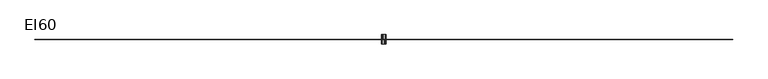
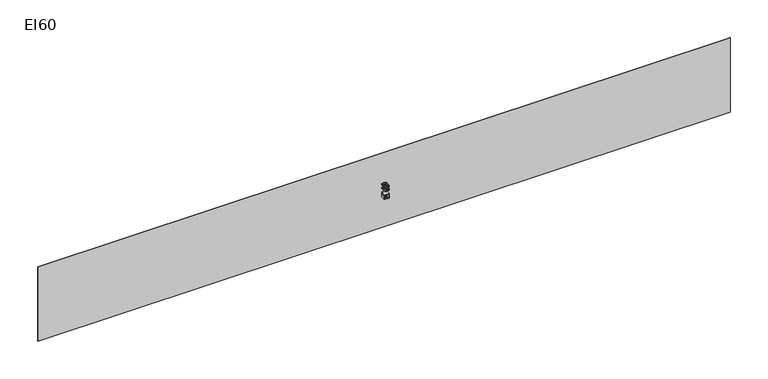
"""IFC4 building model written with IfcOpenShell, lengths in millimetres: proxy geometry, Fire_FireCompartmentationEI : EI60."""

import ifcopenshell
import ifcopenshell.guid

model = None  # the IFC model being written
_history = None  # IfcOwnerHistory: only IFC2X3 demands one
_inside = {}  # id of a spatial element -> (the spatial element, [elements in it])
_under = {}  # id of a project, library or spatial element -> (it, [spatial elements below it])
_declared = {}  # id of a project -> (the project, [libraries it declares])
_typed = {}  # id of a type object -> (the type object, [elements of that type])
_made_of = {}  # id of a material, layer set ... -> (it, [elements and type objects made of it])


def new_model(schema):
    """Start an empty IFC model of exactly this schema.

    Asked for "IFC4X3", IfcOpenShell would pick the latest addendum, in which some entities
    have other attributes; the version numbers below select the first issue.
    IFC2X3 requires an IfcOwnerHistory on every rooted entity: one is made here for all.
    """
    global model, _history
    if schema == "IFC4X3":
        model = ifcopenshell.file(schema_version=(4, 3, 0, 0))
    else:
        model = ifcopenshell.file(schema=schema)
    _inside.clear()
    _under.clear()
    _declared.clear()
    _typed.clear()
    _made_of.clear()
    _history = None
    if model.schema == "IFC2X3":
        org = make("IfcOrganization", Name="unknown")
        user = make(
            "IfcPersonAndOrganization",
            ThePerson=make("IfcPerson", FamilyName="unknown"),
            TheOrganization=org,
        )
        app = make(
            "IfcApplication",
            ApplicationDeveloper=org,
            Version="unknown",
            ApplicationFullName="unknown",
            ApplicationIdentifier="unknown",
        )
        _history = make(
            "IfcOwnerHistory",
            OwningUser=user,
            OwningApplication=app,
            ChangeAction="ADDED",
            CreationDate=0,
        )
    return model


def make(cls, **values):
    """One entity of the class cls with the attributes given. An attribute that is None is left unset."""
    return model.create_entity(
        cls, **{name: value for name, value in values.items() if value is not None}
    )


def rooted(cls, **values):
    """An entity with a GlobalId (a new one), such as an element, a storey or a relation."""
    return make(cls, GlobalId=ifcopenshell.guid.new(), OwnerHistory=_history, **values)


def si_unit(unit_type, name, prefix=None):
    """IfcSIUnit, for example si_unit("LENGTHUNIT", "METRE", prefix="MILLI")."""
    return make("IfcSIUnit", UnitType=unit_type, Prefix=prefix, Name=name)


def assignment(units):
    """IfcUnitAssignment: the units of a project."""
    return None if units is None else make("IfcUnitAssignment", Units=units)


def point(xyz):
    """IfcCartesianPoint."""
    return None if xyz is None else make("IfcCartesianPoint", Coordinates=xyz)


def direction(xyz):
    """IfcDirection."""
    return None if xyz is None else make("IfcDirection", DirectionRatios=xyz)


def frame(location, z_axis=None, x_axis=None):
    """IfcAxis2Placement3D, a coordinate frame: its origin and axes. An axis left out is left unset."""
    return make(
        "IfcAxis2Placement3D",
        Location=point(location),
        Axis=direction(z_axis),
        RefDirection=direction(x_axis),
    )


def frame_2d(location, x_axis=None):
    """IfcAxis2Placement2D, a coordinate frame in the plane: its origin and x axis."""
    return make(
        "IfcAxis2Placement2D", Location=point(location), RefDirection=direction(x_axis)
    )


def origin():
    """The frame at (0, 0, 0) with its axes left unset."""
    return frame((0.0, 0.0, 0.0))


def origin_with_axes():
    """The frame at (0, 0, 0) with the z axis (0, 0, 1) and the x axis (1, 0, 0) written out."""
    return frame((0.0, 0.0, 0.0), z_axis=(0.0, 0.0, 1.0), x_axis=(1.0, 0.0, 0.0))


def place(relative_to, where):
    """IfcLocalPlacement: puts the frame where relative to a parent placement (None: the world)."""
    return make(
        "IfcLocalPlacement", PlacementRelTo=relative_to, RelativePlacement=where
    )


def context(
    kind, dimensions, precision=None, world=None, true_north=None, identifier=None
):
    """IfcGeometricRepresentationContext, for example the 3D "Model" context."""
    return make(
        "IfcGeometricRepresentationContext",
        ContextIdentifier=identifier,
        ContextType=kind,
        CoordinateSpaceDimension=dimensions,
        Precision=precision,
        WorldCoordinateSystem=world,
        TrueNorth=true_north,
    )


def project(units=None, contexts=None):
    """IfcProject with its units and contexts."""
    return rooted(
        "IfcProject",
        Name="project",
        RepresentationContexts=contexts,
        UnitsInContext=assignment(units),
    )


def spatial(cls, under=None, at=None, **own):
    """A site, building, storey or space (cls), placed at a placement, below another one or the project."""
    s = rooted(cls, ObjectPlacement=at, **own)
    if under is not None:
        _under.setdefault(under.id(), (under, []))[1].append(s)
    return s


def polyline(points):
    """IfcPolyline through the points."""
    return make("IfcPolyline", Points=[point(p) for p in points])


def circle_curve(where, radius):
    """IfcCircle in the frame where."""
    return make("IfcCircle", Position=where, Radius=radius)


def trimmed(basis, trim1, trim2, sense, master):
    """IfcTrimmedCurve: the piece of a basis curve between two trims."""
    return make(
        "IfcTrimmedCurve",
        BasisCurve=basis,
        Trim1=trim1,
        Trim2=trim2,
        SenseAgreement=sense,
        MasterRepresentation=master,
    )


def segment(curve, same_sense, transition):
    """IfcCompositeCurveSegment."""
    return make(
        "IfcCompositeCurveSegment",
        Transition=transition,
        SameSense=same_sense,
        ParentCurve=curve,
    )


def composite_curve(segments, self_intersect=None):
    """IfcCompositeCurve: segments joined end to end."""
    return make("IfcCompositeCurve", Segments=segments, SelfIntersect=self_intersect)


def outline(outer, holes=None, kind="AREA"):
    """IfcArbitraryClosedProfileDef: a profile drawn as a closed curve; with holes, ...WithVoids."""
    if holes is None:
        return make("IfcArbitraryClosedProfileDef", ProfileType=kind, OuterCurve=outer)
    return make(
        "IfcArbitraryProfileDefWithVoids",
        ProfileType=kind,
        OuterCurve=outer,
        InnerCurves=holes,
    )


def extrude(swept, where, along, depth):
    """IfcExtrudedAreaSolid: the profile swept, set in the frame where, extruded along a direction by depth."""
    return make(
        "IfcExtrudedAreaSolid",
        SweptArea=swept,
        Position=where,
        ExtrudedDirection=direction(along),
        Depth=depth,
    )


def shape(context_of_items, identifier, shape_type, items):
    """IfcShapeRepresentation: the items that make up one representation, for example the "Body"."""
    return make(
        "IfcShapeRepresentation",
        ContextOfItems=context_of_items,
        RepresentationIdentifier=identifier,
        RepresentationType=shape_type,
        Items=items,
    )


def source(mapping_origin, context_of_items, identifier, shape_type, items):
    """IfcRepresentationMap: a shape defined once, which mapped items show again and again."""
    return make(
        "IfcRepresentationMap",
        MappingOrigin=mapping_origin,
        MappedRepresentation=shape(context_of_items, identifier, shape_type, items),
    )


def transform(
    local_origin,
    x_axis=None,
    y_axis=None,
    z_axis=None,
    scale=None,
    scale2=None,
    scale3=None,
    uniform=True,
):
    """IfcCartesianTransformationOperator3D, or its non-uniform kind. x_axis, y_axis, z_axis: its Axis1, 2, 3."""
    if uniform:
        return make(
            "IfcCartesianTransformationOperator3D",
            Axis1=direction(x_axis),
            Axis2=direction(y_axis),
            LocalOrigin=point(local_origin),
            Scale=scale,
            Axis3=direction(z_axis),
        )
    return make(
        "IfcCartesianTransformationOperator3DnonUniform",
        Axis1=direction(x_axis),
        Axis2=direction(y_axis),
        LocalOrigin=point(local_origin),
        Scale=scale,
        Axis3=direction(z_axis),
        Scale2=scale2,
        Scale3=scale3,
    )


def mapped(mapping_source, mapping_target):
    """IfcMappedItem: shows the shape of a source again, moved by a transform."""
    return make(
        "IfcMappedItem", MappingSource=mapping_source, MappingTarget=mapping_target
    )


def made_of(thing, what):
    """Note that an element or type object is made of a material, layer set ...; save() writes the relation."""
    if what is not None:
        _made_of.setdefault(what.id(), (what, []))[1].append(thing)
    return thing


def element(
    cls,
    number,
    at=None,
    inside=None,
    cuts=None,
    type_object=None,
    material=None,
    context=None,
    identifier="Body",
    shape_type=None,
    held_by="IfcProductDefinitionShape",
    body=None,
    shapes=None,
    **own,
):
    """One element of the class cls, such as IfcWall. Its Tag is "e" and its number.

    at: its placement. inside: the storey or other place that contains it. cuts: it is an
    opening in that element (IfcRelVoidsElement). A single representation is given by context,
    identifier, shape_type and body (its items); several are given by shapes. held_by: the class
    of the entity that holds the representations. save() writes the other relations.
    """
    e = rooted(cls, Tag="e%d" % number, ObjectPlacement=at, **own)
    if body is not None:
        shapes = [shape(context, identifier, shape_type, body)]
    if shapes is not None:
        e.Representation = make(held_by, Representations=shapes)
    if inside is not None:
        _inside.setdefault(inside.id(), (inside, []))[1].append(e)
    if cuts is not None:
        rooted(
            "IfcRelVoidsElement", RelatingBuildingElement=cuts, RelatedOpeningElement=e
        )
    if type_object is not None:
        _typed.setdefault(type_object.id(), (type_object, []))[1].append(e)
    return made_of(e, material)


def aggregate(whole, parts):
    """IfcRelAggregates: a whole, such as a stair, and the parts it consists of."""
    return rooted("IfcRelAggregates", RelatingObject=whole, RelatedObjects=parts)


def save(model, path):
    """Write the relations noted so far, then the file.

    IfcRelAggregates (storeys below a building ...), IfcRelContainedInSpatialStructure (elements
    in a storey), IfcRelDefinesByType, IfcRelAssociatesMaterial and IfcRelDeclares: one each for
    every whole, place, type object, material and project.
    """
    for whole, parts in _under.values():
        aggregate(whole, parts)
    for where, things in _inside.values():
        rooted(
            "IfcRelContainedInSpatialStructure",
            RelatedElements=things,
            RelatingStructure=where,
        )
    for kind, things in _typed.values():
        rooted("IfcRelDefinesByType", RelatedObjects=things, RelatingType=kind)
    for what, things in _made_of.values():
        rooted("IfcRelAssociatesMaterial", RelatedObjects=things, RelatingMaterial=what)
    for by, libraries in _declared.values():
        rooted("IfcRelDeclares", RelatingContext=by, RelatedDefinitions=libraries)
    model.write(path)


def ei60_fa00921c(model_context):
    return source(origin(), model_context, "Body", "SweptSolid", [
        extrude(outline(polyline([(21952.5, -0.5), (0.0, -0.5), (0.0, 0.5), (21952.5, 0.5), (21952.5, -0.5)])), origin_with_axes(), (0.0, 0.0, 1.0), 2500.0),
        extrude(outline(composite_curve([segment(trimmed(circle_curve(frame_2d((28.9488523, 20.9372462)), 4.3000253), [point((27.7936078, 25.0791815))], [point((29.724042, 25.1668205))], False, "CARTESIAN"), True, "CONTINUOUS"), segment(trimmed(circle_curve(frame_2d((29.6833004, 19.2917407)), 5.875221), [point((29.724042, 25.1668205))], [point((32.6283278, 24.3755421))], False, "CARTESIAN"), True, "CONTINUOUS"), segment(trimmed(circle_curve(frame_2d((32.8576867, 20.8662932)), 3.5167361), [point((32.6283278, 24.3755421))], [point((30.6249304, 23.5833197))], True, "CARTESIAN"), True, "CONTINUOUS"), segment(trimmed(circle_curve(frame_2d((10.876956, 53.8348059)), 36.1266511), [point((30.6249304, 23.5833197))], [point((25.8949704, 20.9776277))], False, "CARTESIAN"), True, "CONTINUOUS"), segment(trimmed(circle_curve(frame_2d((21.9041848, 33.757735)), 13.3887083), [point((25.8949704, 20.9776277))], [point((22.6832699, 20.3917132))], False, "CARTESIAN"), True, "CONTINUOUS"), segment(trimmed(circle_curve(frame_2d((20.9508608, 39.8789486)), 19.5640891), [point((22.6832699, 20.3917132))], [point((20.0109811, 20.3374489))], False, "CARTESIAN"), True, "CONTINUOUS"), segment(trimmed(circle_curve(frame_2d((18.2722891, 30.1747881)), 9.9898094), [point((20.0109811, 20.3374489))], [point((25.2489423, 23.0247809))], True, "CARTESIAN"), True, "CONTINUOUS"), segment(trimmed(circle_curve(frame_2d((30.9774835, 18.5323372)), 7.2799887), [point((25.2489423, 23.0247809))], [point((27.7936078, 25.0791815))], False, "CARTESIAN"), True, "CONTINUOUS")], self_intersect=False)), frame((0.0, -0.6, 0.0), z_axis=(0.0, 1.0, 0.0), x_axis=(0.0, 0.0, 1.0)), (0.0, 0.0, 1.0), 1.2),
        extrude(outline(composite_curve([segment(trimmed(circle_curve(frame_2d((34.8553456, 17.4656787)), 4.3823741), [point((35.4675373, 21.8050824))], [point((32.7666638, 21.3182897))], True, "CARTESIAN"), True, "CONTINUOUS"), segment(trimmed(circle_curve(frame_2d((31.0348418, 25.2412811)), 4.2882478), [point((32.7666638, 21.3182897))], [point((31.0556823, 20.9530839))], False, "CARTESIAN"), True, "CONTINUOUS"), segment(trimmed(circle_curve(frame_2d((30.8661112, 26.3534755)), 5.4037178), [point((31.0556823, 20.9530839))], [point((28.4262544, 21.5319337))], False, "CARTESIAN"), True, "CONTINUOUS"), segment(trimmed(circle_curve(frame_2d((28.9867579, 26.8058524)), 5.3036197), [point((28.4262544, 21.5319337))], [point((30.6443727, 21.7679267))], True, "CARTESIAN"), True, "CONTINUOUS"), segment(trimmed(circle_curve(frame_2d((33.7648144, 18.2895153)), 4.6729544), [point((30.6443727, 21.7679267))], [point((32.5632515, 22.8053485))], False, "CARTESIAN"), True, "CONTINUOUS"), segment(trimmed(circle_curve(frame_2d((33.1708117, 19.8529583)), 3.0142556), [point((32.5632515, 22.8053485))], [point((35.4675373, 21.8050824))], False, "CARTESIAN"), True, "CONTINUOUS")], self_intersect=False)), frame((0.0, -0.6, 0.0), z_axis=(0.0, 1.0, 0.0), x_axis=(0.0, 0.0, 1.0)), (0.0, 0.0, 1.0), 1.2),
        extrude(outline(composite_curve([segment(trimmed(circle_curve(frame_2d((26.35828, 17.8501973)), 2.1465167), [point((27.6612009, 19.5560492))], [point((26.6135063, 19.9814864))], True, "CARTESIAN"), True, "CONTINUOUS"), segment(trimmed(circle_curve(frame_2d((25.771558, 13.6747037)), 6.3627341), [point((26.6135063, 19.9814864))], [point((25.1811141, 20.0099828))], True, "CARTESIAN"), True, "CONTINUOUS"), segment(trimmed(circle_curve(frame_2d((27.6708438, 15.0485986)), 5.5510437), [point((25.1811141, 20.0099828))], [point((27.8117089, 20.5978547))], False, "CARTESIAN"), True, "CONTINUOUS"), segment(trimmed(circle_curve(frame_2d((27.9681735, 17.2267436)), 3.3747401), [point((27.8117089, 20.5978547))], [point((29.507487, 20.2299728))], False, "CARTESIAN"), True, "CONTINUOUS"), segment(trimmed(circle_curve(frame_2d((31.5381431, 23.6896238)), 4.0115769), [point((29.507487, 20.2299728))], [point((32.2223971, 19.7368341))], True, "CARTESIAN"), True, "CONTINUOUS"), segment(trimmed(circle_curve(frame_2d((29.9256715, 21.6889582)), 3.0142556), [point((32.2223971, 19.7368341))], [point((29.3181113, 18.736568))], False, "CARTESIAN"), True, "CONTINUOUS"), segment(trimmed(circle_curve(frame_2d((30.5170043, 23.2454076)), 4.6655095), [point((29.3181113, 18.736568))], [point((27.6612009, 19.5560492))], False, "CARTESIAN"), True, "CONTINUOUS")], self_intersect=False)), frame((0.0, -0.6, 0.0), z_axis=(0.0, 1.0, 0.0), x_axis=(0.0, 0.0, 1.0)), (0.0, 0.0, 1.0), 1.2),
        extrude(outline(composite_curve([segment(trimmed(circle_curve(frame_2d((32.8467056, 19.4711557)), 3.5167361), [point((30.6139493, 16.7541292))], [point((32.6173467, 15.9619068))], True, "CARTESIAN"), True, "CONTINUOUS"), segment(trimmed(circle_curve(frame_2d((29.6723193, 21.0457082)), 5.875221), [point((32.6173467, 15.9619068))], [point((29.7130609, 15.1706284))], False, "CARTESIAN"), True, "CONTINUOUS"), segment(trimmed(circle_curve(frame_2d((28.9378712, 19.4002026)), 4.3000253), [point((29.7130609, 15.1706284))], [point((27.7826267, 15.2582674))], False, "CARTESIAN"), True, "CONTINUOUS"), segment(trimmed(circle_curve(frame_2d((30.9665024, 21.8051117)), 7.2799887), [point((27.7826267, 15.2582674))], [point((25.2379612, 17.312668))], False, "CARTESIAN"), True, "CONTINUOUS"), segment(trimmed(circle_curve(frame_2d((18.261308, 10.1626608)), 9.9898094), [point((25.2379612, 17.312668))], [point((20.0, 20.0))], True, "CARTESIAN"), True, "CONTINUOUS"), segment(trimmed(circle_curve(frame_2d((20.9398797, 0.4585003)), 19.5640891), [point((20.0, 20.0))], [point((22.6722888, 19.9457357))], False, "CARTESIAN"), True, "CONTINUOUS"), segment(trimmed(circle_curve(frame_2d((21.8932037, 6.5797139)), 13.3887083), [point((22.6722888, 19.9457357))], [point((25.8839893, 19.3598212))], False, "CARTESIAN"), True, "CONTINUOUS"), segment(trimmed(circle_curve(frame_2d((10.8659749, -13.497357)), 36.1266511), [point((25.8839893, 19.3598212))], [point((30.6139493, 16.7541292))], False, "CARTESIAN"), True, "CONTINUOUS")], self_intersect=False)), frame((0.0, -0.6, 0.0), z_axis=(0.0, 1.0, 0.0), x_axis=(0.0, 0.0, 1.0)), (0.0, 0.0, 1.0), 1.2),
        extrude(outline(polyline([(1022.7960798, 10901.25), (1022.7960798, 11051.9344652), (1131.1005392, 11051.9344652), (1131.1005392, 11033.0989071), (1041.6316379, 11033.0989071), (1041.6316379, 10988.3644565), (1126.3916496, 10988.3644565), (1126.3916496, 10969.5288983), (1041.6316379, 10969.5288983), (1041.6316379, 10920.0855582), (1133.4549839, 10920.0855582), (1133.4549839, 10901.25), (1022.7960798, 10901.25)])), frame((0.0, 0.0, 0.0), z_axis=(0.0, 1.0, 0.0), x_axis=(0.0, 0.0, 1.0)), (0.0, 0.0, 1.0), 150.0),
        extrude(outline(polyline([(10901.25, 150.0), (11051.9344652, 150.0), (11051.9344652, 0.0), (10901.25, 0.0), (10901.25, 150.0)])), frame((0.0, 0.0, 1164.0627659), z_axis=(0.0, 0.0, 1.0), x_axis=(1.0, 0.0, 0.0)), (0.0, 0.0, 1.0), 18.8355582),
        extrude(outline(polyline([(1368.8994608, 11011.9089041), (1350.0639027, 11009.5544594), (1342.926992, 11025.2630206), (1334.3829326, 11031.1399354), (1324.0546456, 11033.0989071), (1307.0584975, 11028.5371703), (1294.2010217, 11011.4122635), (1290.296874, 10997.3821639), (1288.8483387, 10977.8430314), (1305.4582108, 10992.8710109), (1326.0412084, 10997.7822355), (1343.4420268, 10994.4253123), (1358.046942, 10984.3545427), (1367.9521647, 10968.9678783), (1371.2539056, 10949.6632706), (1369.6996042, 10936.1757969), (1365.0366999, 10923.6724076), (1357.6514688, 10913.0682091), (1347.9301871, 10905.2783078), (1336.3143131, 10900.4912434), (1323.2453052, 10898.8955552), (1301.8759598, 10903.1261982), (1284.856819, 10915.818127), (1273.7237902, 10938.2221405), (1270.0127805, 10971.5890375), (1274.1330589, 11009.1038039), (1286.4938939, 11034.754376), (1303.3704805, 11047.6394429), (1325.231868, 11051.9344652), (1341.7589666, 11049.2765178), (1354.9935214, 11041.3026756), (1364.2641477, 11028.6383379), (1368.8994608, 11011.9089041)]), holes=[polyline([(1288.8483387, 10949.9575762), (1293.2077403, 10933.6420097), (1304.7960232, 10921.7962094), (1321.7737773, 10917.7311134), (1334.2035902, 10919.8372378), (1343.9754557, 10926.1556111), (1350.3076245, 10936.0884249), (1352.4183475, 10949.0378712), (1350.3352157, 10961.4676841), (1344.0858203, 10970.945244), (1334.1484079, 10976.946319), (1321.0012251, 10978.9466774), (1308.5898063, 10976.946319), (1298.2109355, 10970.945244), (1291.1889879, 10961.6976103), (1288.8483387, 10949.9575762)])]), frame((0.0, 0.0, 0.0), z_axis=(0.0, 1.0, 0.0), x_axis=(0.0, 0.0, 1.0)), (0.0, 0.0, 1.0), 150.0),
        extrude(outline(polyline([(1387.735019, 10975.378222), (1389.119175, 10999.4974853), (1393.271643, 11018.7331152), (1400.1510363, 11033.3794171), (1409.7159682, 11043.7306967), (1422.0354165, 11049.8835231), (1437.1783591, 11051.9344652), (1459.1777025, 11047.0784229), (1474.3712289, 11033.080513), (1483.2003967, 11010.7868641), (1486.6216993, 10975.378222), (1485.2513389, 10951.3969145), (1481.1402576, 10932.2072699), (1474.302251, 10917.5471724), (1464.7511147, 10907.154506), (1452.4040752, 10900.9602929), (1437.1783591, 10898.8955552), (1417.607037, 10902.4824047), (1402.7446044, 10913.242953), (1391.4874153, 10938.7279783), (1387.735019, 10975.378222)]), holes=[polyline([(1406.5705771, 10975.4150102), (1408.7778691, 10945.786714), (1415.399745, 10928.6388145), (1425.2589825, 10920.4580387), (1437.1783591, 10917.7311134), (1449.0977358, 10920.4672357), (1458.9569733, 10928.6756027), (1465.5788492, 10945.8326993), (1467.7861411, 10975.4150102), (1465.6524256, 11004.3765203), (1459.2512789, 11021.657777), (1449.4104355, 11030.2386246), (1436.9576299, 11033.0989071), (1425.167012, 11030.5789154), (1415.6940506, 11023.0189404), (1408.8514455, 11004.6616288), (1406.5705771, 10975.4150102)])]), frame((0.0, 0.0, 0.0), z_axis=(0.0, 1.0, 0.0), x_axis=(0.0, 0.0, 1.0)), (0.0, 0.0, 1.0), 150.0),
        extrude(outline(polyline([(1022.7960798, 11051.25), (1133.4549839, 11051.25), (1133.4549839, 11032.4144418), (1041.6316379, 11032.4144418), (1041.6316379, 10982.9711017), (1126.3916496, 10982.9711017), (1126.3916496, 10964.1355435), (1041.6316379, 10964.1355435), (1041.6316379, 10919.4010929), (1131.1005392, 10919.4010929), (1131.1005392, 10900.5655348), (1022.7960798, 10900.5655348), (1022.7960798, 11051.25)])), frame((0.0, -150.0, 0.0), z_axis=(0.0, 1.0, 0.0), x_axis=(0.0, 0.0, 1.0)), (0.0, 0.0, 1.0), 150.0),
        extrude(outline(polyline([(11051.25, -150.0), (10900.5655348, -150.0), (10900.5655348, 0.0), (11051.25, 0.0), (11051.25, -150.0)])), frame((0.0, 0.0, 1164.0627659), z_axis=(0.0, 0.0, 1.0), x_axis=(1.0, 0.0, 0.0)), (0.0, 0.0, 1.0), 18.8355582),
        extrude(outline(polyline([(1368.8994608, 10940.5910959), (1364.2641477, 10923.8616621), (1354.9935214, 10911.1973244), (1341.7589666, 10903.2234822), (1325.231868, 10900.5655348), (1303.3704805, 10904.8605571), (1286.4938939, 10917.745624), (1274.1330589, 10943.3961961), (1270.0127805, 10980.9109625), (1273.7237902, 11014.2778595), (1284.856819, 11036.681873), (1301.8759598, 11049.3738018), (1323.2453052, 11053.6044448), (1336.3143131, 11052.0087566), (1347.9301871, 11047.2216922), (1357.6514688, 11039.4317909), (1365.0366999, 11028.8275924), (1369.6996042, 11016.3242031), (1371.2539056, 11002.8367294), (1367.9521647, 10983.5321217), (1358.046942, 10968.1454573), (1343.4420268, 10958.0746877), (1326.0412084, 10954.7177645), (1305.4582108, 10959.6289891), (1288.8483387, 10974.6569686), (1290.296874, 10955.1178361), (1294.2010217, 10941.0877365), (1307.0584975, 10923.9628297), (1324.0546456, 10919.4010929), (1334.3829326, 10921.3600646), (1342.926992, 10927.2369794), (1350.0639027, 10942.9455406), (1368.8994608, 10940.5910959)]), holes=[polyline([(1288.8483387, 11002.5424238), (1291.1889879, 10990.8023897), (1298.2109355, 10981.554756), (1308.5898063, 10975.553681), (1321.0012251, 10973.5533226), (1334.1484079, 10975.553681), (1344.0858203, 10981.554756), (1350.3352157, 10991.0323159), (1352.4183475, 11003.4621288), (1350.3076245, 11016.4115751), (1343.9754557, 11026.3443889), (1334.2035902, 11032.6627622), (1321.7737773, 11034.7688866), (1304.7960232, 11030.7037906), (1293.2077403, 11018.8579903), (1288.8483387, 11002.5424238)])]), frame((0.0, -150.0, 0.0), z_axis=(0.0, 1.0, 0.0), x_axis=(0.0, 0.0, 1.0)), (0.0, 0.0, 1.0), 150.0),
        extrude(outline(polyline([(1387.735019, 10977.121778), (1391.4874153, 11013.7720217), (1402.7446044, 11039.257047), (1417.607037, 11050.0175953), (1437.1783591, 11053.6044448), (1452.4040752, 11051.5397071), (1464.7511147, 11045.345494), (1474.302251, 11034.9528276), (1481.1402576, 11020.2927301), (1485.2513389, 11001.1030855), (1486.6216993, 10977.121778), (1483.2003967, 10941.7131359), (1474.3712289, 10919.419487), (1459.1777025, 10905.4215771), (1437.1783591, 10900.5655348), (1422.0354165, 10902.6164769), (1409.7159682, 10908.7693033), (1400.1510363, 10919.1205829), (1393.271643, 10933.7668848), (1389.119175, 10953.0025147), (1387.735019, 10977.121778)]), holes=[polyline([(1406.5705771, 10977.0849898), (1408.8514455, 10947.8383712), (1415.6940506, 10929.4810596), (1425.167012, 10921.9210846), (1436.9576299, 10919.4010929), (1449.4104355, 10922.2613754), (1459.2512789, 10930.842223), (1465.6524256, 10948.1234797), (1467.7861411, 10977.0849898), (1465.5788492, 11006.6673007), (1458.9569733, 11023.8243973), (1449.0977358, 11032.0327643), (1437.1783591, 11034.7688866), (1425.2589825, 11032.0419613), (1415.399745, 11023.8611855), (1408.7778691, 11006.713286), (1406.5705771, 10977.0849898)])]), frame((0.0, -150.0, 0.0), z_axis=(0.0, 1.0, 0.0), x_axis=(0.0, 0.0, 1.0)), (0.0, 0.0, 1.0), 150.0),
    ])


if __name__ == "__main__":
    model = new_model("IFC4")
    model_context = context("Model", 3, world=origin())
    ifc_project = project(units=[si_unit("LENGTHUNIT", "METRE", prefix="MILLI")], contexts=[model_context])
    site = spatial("IfcSite", under=ifc_project)
    building = spatial("IfcBuilding", under=site)
    placement = place(None, origin())
    ei60_shape = ei60_fa00921c(model_context)
    element("IfcBuildingElementProxy", 1, Name="Fire_FireCompartmentationEI : EI60", ObjectType="Fire_FireCompartmentationEI : EI60", at=placement, inside=building, context=model_context, shape_type="MappedRepresentation", body=[
        mapped(ei60_shape, transform((0.0, 0.0, 0.0), x_axis=(1.0, 0.0, 0.0), y_axis=(0.0, 1.0, 0.0), z_axis=(0.0, 0.0, 1.0))),
    ])
    save(model, "model.ifc")
